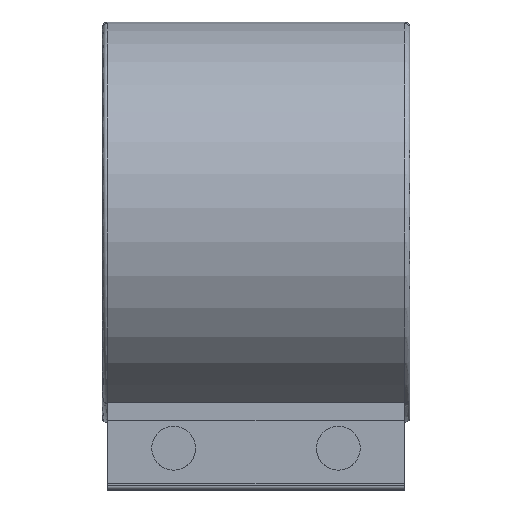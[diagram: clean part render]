
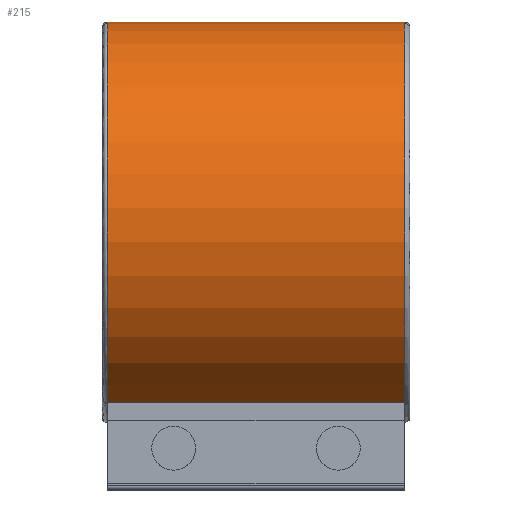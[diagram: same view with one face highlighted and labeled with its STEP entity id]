
A CAD part, top view. The second image highlights one B-rep face of the part: STEP entity #215.
In plain terms, the highlighted cylindrical face has radius 36.5 mm (diameter 73 mm), a partial arc.
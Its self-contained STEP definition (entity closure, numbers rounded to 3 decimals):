
#215 = ADVANCED_FACE( '', ( #489 ), #490, .T. );
#489 = FACE_OUTER_BOUND( '', #818, .T. );
#490 = CYLINDRICAL_SURFACE( '', #819, 36.5 );
#818 = EDGE_LOOP( '', ( #1374, #1375, #1376, #1377 ) );
#819 = AXIS2_PLACEMENT_3D( '', #1378, #1379, #1380 );
#1374 = ORIENTED_EDGE( '', *, *, #1899, .T. );
#1375 = ORIENTED_EDGE( '', *, *, #1751, .T. );
#1376 = ORIENTED_EDGE( '', *, *, #1874, .F. );
#1377 = ORIENTED_EDGE( '', *, *, #1900, .T. );
#1378 = CARTESIAN_POINT( '', ( 28., 0., 0. ) );
#1379 = DIRECTION( '', ( -1., 0., 0. ) );
#1380 = DIRECTION( '', ( 0., 0., -1. ) );
#1751 = EDGE_CURVE( '', #2066, #2067, #2068, .T. );
#1874 = EDGE_CURVE( '', #2163, #2067, #2258, .T. );
#1899 = EDGE_CURVE( '', #2117, #2066, #2291, .T. );
#1900 = EDGE_CURVE( '', #2163, #2117, #2292, .F. );
#2066 = VERTEX_POINT( '', #2503 );
#2067 = VERTEX_POINT( '', #2504 );
#2068 = LINE( '', #2505, #2506 );
#2117 = VERTEX_POINT( '', #2577 );
#2163 = VERTEX_POINT( '', #2637 );
#2258 = CIRCLE( '', #2765, 36.5 );
#2291 = CIRCLE( '', #2810, 36.5 );
#2292 = LINE( '', #2811, #2812 );
#2503 = CARTESIAN_POINT( '', ( -27.124, -32.927, 15.75 ) );
#2504 = CARTESIAN_POINT( '', ( 27.124, -32.927, 15.75 ) );
#2505 = CARTESIAN_POINT( '', ( 28., -32.927, 15.75 ) );
#2506 = VECTOR( '', #2978, 1000. );
#2577 = CARTESIAN_POINT( '', ( -27.124, -32.927, -15.75 ) );
#2637 = CARTESIAN_POINT( '', ( 27.124, -32.927, -15.75 ) );
#2765 = AXIS2_PLACEMENT_3D( '', #3126, #3127, #3128 );
#2810 = AXIS2_PLACEMENT_3D( '', #3156, #3157, #3158 );
#2811 = CARTESIAN_POINT( '', ( 28., -32.927, -15.75 ) );
#2812 = VECTOR( '', #3159, 1000. );
#2978 = DIRECTION( '', ( 1., 0., 0. ) );
#3126 = CARTESIAN_POINT( '', ( 27.124, 0., 0. ) );
#3127 = DIRECTION( '', ( 1., 0., 0. ) );
#3128 = DIRECTION( '', ( 0., 0., -1. ) );
#3156 = CARTESIAN_POINT( '', ( -27.124, 0., 0. ) );
#3157 = DIRECTION( '', ( 1., 0., 0. ) );
#3158 = DIRECTION( '', ( 0., 0., -1. ) );
#3159 = DIRECTION( '', ( 1., 0., 0. ) );
